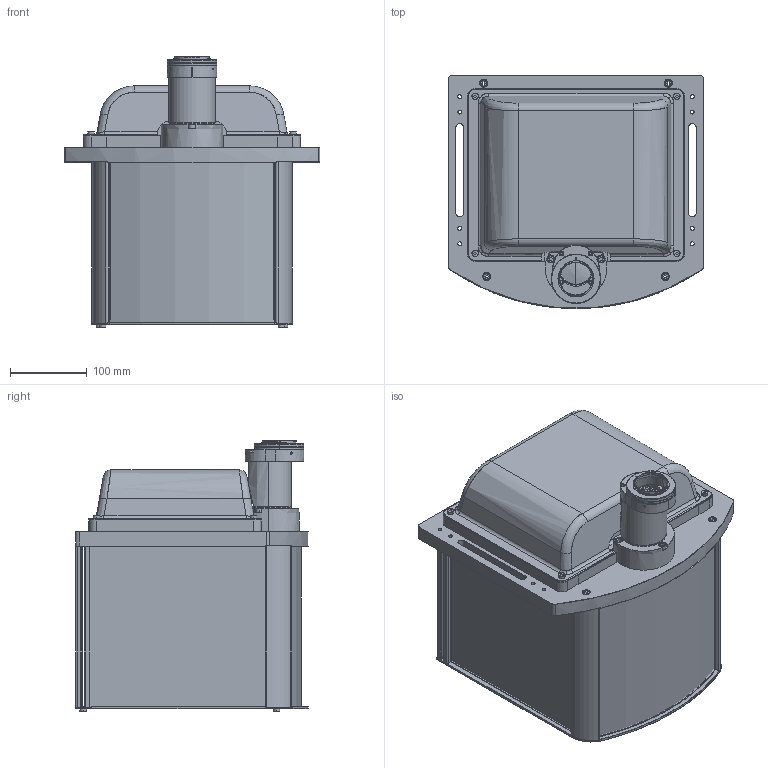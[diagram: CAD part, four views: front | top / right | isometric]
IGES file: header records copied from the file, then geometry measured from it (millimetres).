
Start section: SolidWorks IGES file using analytic representation for surfaces
Global section: file name: \\172.16.20.198\dati\R&D\01 archivio\DPXXXXX-X\DP27590-C_TCCP5MHR144-F.igs; native system: SolidWorks 2021; preprocessor: SolidWorks 2021; author: bertolucci; date: 211115.125650; units: millimetre
Bounding box: 332 x 302.52 x 352.31 mm (x, y, z)
Surface area: 644524.2 mm2 (no closed solid volume)
Topology: 0 solids, 0 shells, 550 faces, 8082 edges, 8081 vertices
Faces by surface type: bspline 306, revolution 244
